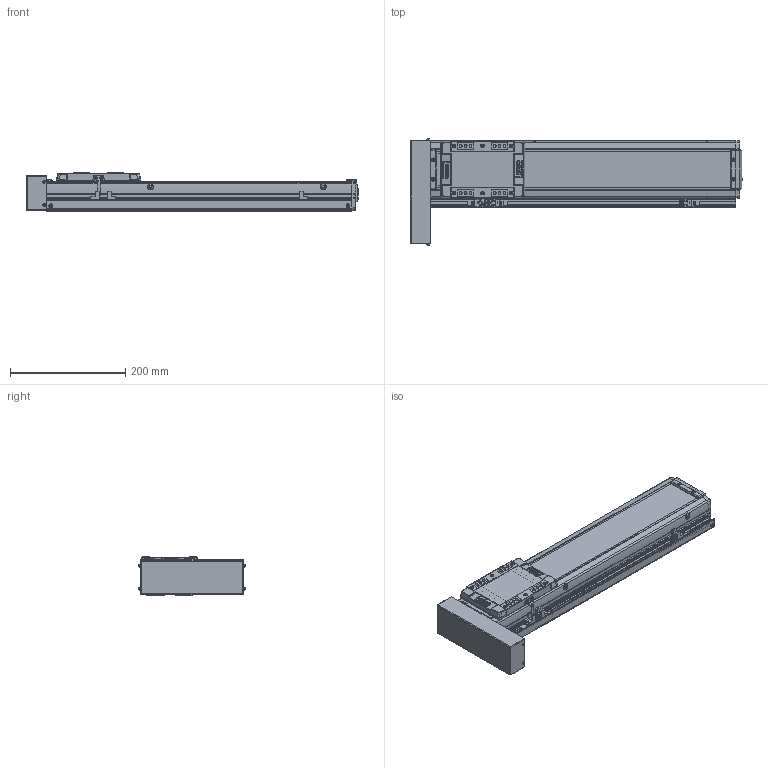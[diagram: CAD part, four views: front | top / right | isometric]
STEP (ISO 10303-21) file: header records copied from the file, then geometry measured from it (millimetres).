
FILE_DESCRIPTION(('STEP AP214'),'1');
FILE_NAME('Z:/Web/3D/SAN100/SAN100 양산용 (STEP)/SAN100ㅁㅁ-350PR+3SR.stp','2013-05-08T06:31:38',(' '),(' '),'Spatial InterOp 3D',' ',' ');
FILE_SCHEMA(('automotive_design'));
Length unit declared in the file: millimetre
Products named in the file (49): SUS COVER; SFX-SAN100; RRCV-SAN100; 스크루 : Round - M4.0 x 10.0; M3.0 x 6.0; 스크루 : Round - M3.0 x 6.0; FRBL-SAN100; SLBL-SAN100; SLCV-SAN100; 스크루 : Countersunk - M3.0 x 6.0; BASE; 스크루 : Round - M5.0 x 6.0; BTCV-SAN65; BHCS M3 X 6L; EE-SX674; SBK-SX674-352; SRL-16x17-380L; SGD-SAN100
Bounding box: 576.5 x 184.13 x 66 mm (x, y, z)
Volume: 1970588.2 mm3; surface area: 507017.9 mm2
Topology: 49 solids, 50 shells, 2349 faces, 6116 edges, 3963 vertices
Faces by surface type: plane 1280, cylinder 785, cone 186, sphere 64, torus 18, bspline 16
Entity records: 92560 total; most frequent: CARTESIAN_POINT 13755, DIRECTION 12863, ORIENTED_EDGE 12068, EDGE_CURVE 6034, AXIS2_PLACEMENT_3D 4532, VERTEX_POINT 3963, LINE 3799, VECTOR 3799
